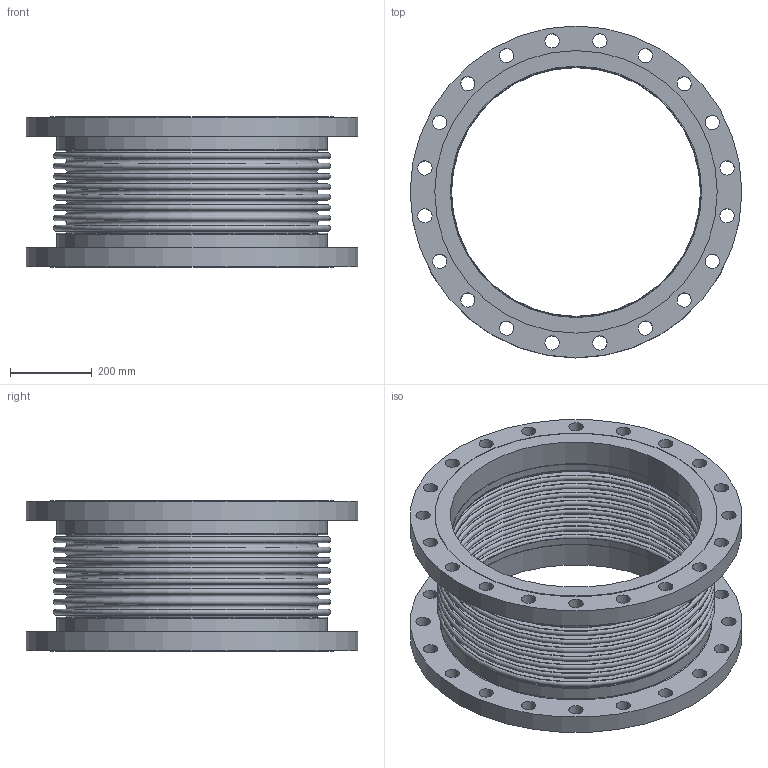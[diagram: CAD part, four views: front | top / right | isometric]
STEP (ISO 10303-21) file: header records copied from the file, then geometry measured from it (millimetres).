
FILE_DESCRIPTION(/* description */ ('EXPANSION JOINT,SINGLE, FLANGED ENDS,24 INCH','CAx-IF Rec.Pracs.---Representation and Presentation of Product Manufacturing Information (PMI)---4.0---2014-10-13'),/* implementation_level */ '2;1');
FILE_NAME(/* name */ 'US-24-8-85S-FLANGED ENDS.stp',/* time_stamp */ '2026-07-31T18:00:56-05:00',/* author */ ('Guadalupe'),/* organization */ (''),/* preprocessor_version */ 'ST-DEVELOPER v20.1',/* originating_system */ 'Autodesk Inventor 2026',/* authorisation */ '');
FILE_SCHEMA (('AP242_MANAGED_MODEL_BASED_3D_ENGINEERING_MIM_LF { 1 0 10303 442 2 1 4 }'));
Length unit declared in the file: inch
Products named in the file (3): 24-85S; 24-85S-02; 24-85S-01
Assembly tree (3 placements, depth 2):
  24-85S
    24-85S-02  x2
    24-85S-01
Bounding box: 812.8 x 812.8 x 368.3 mm (x, y, z)
Volume: 23858835.2 mm3; surface area: 4524237.7 mm2
Topology: 5 solids, 5 shells, 136 faces, 270 edges, 180 vertices
Faces by surface type: cylinder 52, plane 46, torus 38
Full cylindrical faces by diameter (mm): 34.925 x40, 609.6 x2, 612.038 x2, 615.95 x2, 663.702 x2, 692.15 x2, 812.8 x2
Entity records: 3026 total; most frequent: DIRECTION 606, CARTESIAN_POINT 449, ORIENTED_EDGE 384, AXIS2_PLACEMENT_3D 289, EDGE_CURVE 192, EDGE_LOOP 188, CIRCLE 164, VERTEX_POINT 128
